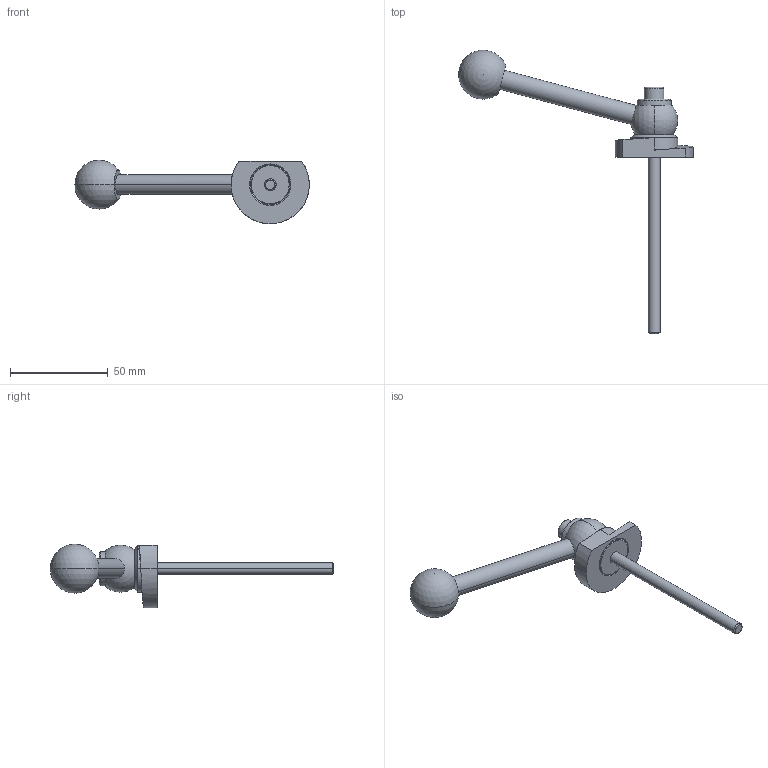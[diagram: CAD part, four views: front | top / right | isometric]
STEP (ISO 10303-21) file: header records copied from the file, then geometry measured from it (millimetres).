
FILE_DESCRIPTION (( 'STEP AP214' ), '1' );
FILE_NAME ('918.1-40-KVS-R-90.step', '2024-05-15T13:00:41', ( '' ), ( '' ), 'SwSTEP 2.0', 'SolidWorks 2022', '' );
FILE_SCHEMA (( 'AUTOMOTIVE_DESIGN' ));
Length unit declared in the file: millimetre
Products named in the file (1): 918.1-40-KVS-R-90
Bounding box: 119.95 x 144.99 x 32.5 mm (x, y, z)
Volume: 32294.8 mm3; surface area: 12532.5 mm2
Topology: 1 solids, 1 shells, 64 faces, 147 edges, 93 vertices
Faces by surface type: cylinder 22, plane 20, cone 14, sphere 4, torus 2, bspline 2
Entity records: 2045 total; most frequent: CARTESIAN_POINT 590, DIRECTION 321, ORIENTED_EDGE 274, EDGE_CURVE 137, AXIS2_PLACEMENT_3D 131, VERTEX_POINT 87, EDGE_LOOP 76, CIRCLE 68
